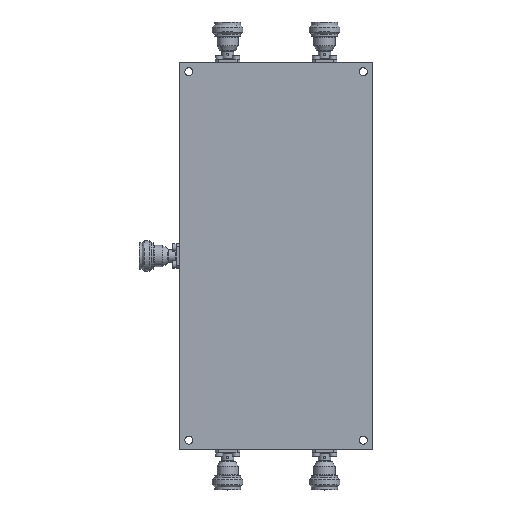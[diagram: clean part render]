
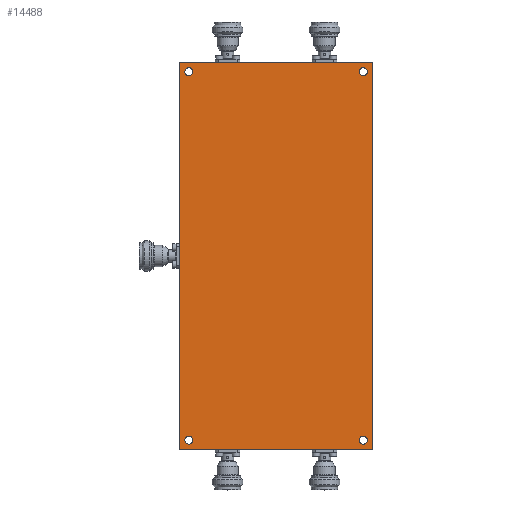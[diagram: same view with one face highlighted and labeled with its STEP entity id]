
A CAD part, top view. The second image highlights one B-rep face of the part: STEP entity #14488.
In plain terms, the highlighted planar face has unit normal (0, 0, 1).
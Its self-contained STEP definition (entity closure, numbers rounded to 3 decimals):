
#759=LINE('',#19435,#1191);
#771=LINE('',#19476,#1203);
#779=LINE('',#19501,#1211);
#785=LINE('',#19540,#1217);
#1191=VECTOR('',#16485,1000.);
#1203=VECTOR('',#16515,1000.);
#1211=VECTOR('',#16533,1000.);
#1217=VECTOR('',#16573,1000.);
#1679=ORIENTED_EDGE('',*,*,#4291,.T.);
#1680=ORIENTED_EDGE('',*,*,#4279,.T.);
#1681=ORIENTED_EDGE('',*,*,#4309,.T.);
#1682=ORIENTED_EDGE('',*,*,#4259,.T.);
#1683=ORIENTED_EDGE('',*,*,#4307,.F.);
#1684=ORIENTED_EDGE('',*,*,#4305,.F.);
#1685=ORIENTED_EDGE('',*,*,#4303,.F.);
#1686=ORIENTED_EDGE('',*,*,#4301,.F.);
#4259=EDGE_CURVE('',#5575,#5576,#759,.T.);
#4279=EDGE_CURVE('',#5595,#5596,#771,.T.);
#4291=EDGE_CURVE('',#5576,#5595,#779,.T.);
#4301=EDGE_CURVE('',#5615,#5615,#6564,.T.);
#4303=EDGE_CURVE('',#5617,#5617,#6566,.T.);
#4305=EDGE_CURVE('',#5619,#5619,#6568,.T.);
#4307=EDGE_CURVE('',#5621,#5621,#6570,.T.);
#4309=EDGE_CURVE('',#5596,#5575,#785,.T.);
#5575=VERTEX_POINT('',#19436);
#5576=VERTEX_POINT('',#19437);
#5595=VERTEX_POINT('',#19477);
#5596=VERTEX_POINT('',#19478);
#5615=VERTEX_POINT('',#19521);
#5617=VERTEX_POINT('',#19526);
#5619=VERTEX_POINT('',#19531);
#5621=VERTEX_POINT('',#19536);
#6564=CIRCLE('',#15236,2.1);
#6566=CIRCLE('',#15239,2.1);
#6568=CIRCLE('',#15242,2.1);
#6570=CIRCLE('',#15245,2.1);
#7114=EDGE_LOOP('',(#1679,#1680,#1681,#1682));
#7115=EDGE_LOOP('',(#1683));
#7116=EDGE_LOOP('',(#1684));
#7117=EDGE_LOOP('',(#1685));
#7118=EDGE_LOOP('',(#1686));
#8158=FACE_BOUND('',#7114,.T.);
#8159=FACE_BOUND('',#7115,.T.);
#8160=FACE_BOUND('',#7116,.T.);
#8161=FACE_BOUND('',#7117,.T.);
#8162=FACE_BOUND('',#7118,.T.);
#9214=PLANE('',#15247);
#14488=ADVANCED_FACE('',(#8158,#8159,#8160,#8161,#8162),#9214,.T.);
#15236=AXIS2_PLACEMENT_3D('',#19520,#16549,#16550);
#15239=AXIS2_PLACEMENT_3D('',#19525,#16555,#16556);
#15242=AXIS2_PLACEMENT_3D('',#19530,#16561,#16562);
#15245=AXIS2_PLACEMENT_3D('',#19535,#16567,#16568);
#15247=AXIS2_PLACEMENT_3D('',#19539,#16571,#16572);
#16485=DIRECTION('',(-1.,0.,0.));
#16515=DIRECTION('',(1.,0.,0.));
#16533=DIRECTION('',(0.,-1.,0.));
#16549=DIRECTION('',(0.,0.,1.));
#16550=DIRECTION('',(1.,0.,0.));
#16555=DIRECTION('',(0.,0.,1.));
#16556=DIRECTION('',(1.,0.,0.));
#16561=DIRECTION('',(0.,0.,1.));
#16562=DIRECTION('',(1.,0.,0.));
#16567=DIRECTION('',(0.,0.,1.));
#16568=DIRECTION('',(1.,0.,0.));
#16571=DIRECTION('',(0.,0.,1.));
#16572=DIRECTION('',(1.,0.,0.));
#16573=DIRECTION('',(0.,1.,0.));
#19435=CARTESIAN_POINT('',(50.,100.,0.));
#19436=CARTESIAN_POINT('',(50.,100.,0.));
#19437=CARTESIAN_POINT('',(-50.,100.,0.));
#19476=CARTESIAN_POINT('',(-50.,-100.,0.));
#19477=CARTESIAN_POINT('',(-50.,-100.,0.));
#19478=CARTESIAN_POINT('',(50.,-100.,0.));
#19501=CARTESIAN_POINT('',(-50.,100.,0.));
#19520=CARTESIAN_POINT('',(-45.,-95.,0.));
#19521=CARTESIAN_POINT('',(-42.9,-95.,0.));
#19525=CARTESIAN_POINT('',(45.,-95.,0.));
#19526=CARTESIAN_POINT('',(47.1,-95.,0.));
#19530=CARTESIAN_POINT('',(45.,95.,0.));
#19531=CARTESIAN_POINT('',(47.1,95.,0.));
#19535=CARTESIAN_POINT('',(-45.,95.,0.));
#19536=CARTESIAN_POINT('',(-42.9,95.,0.));
#19539=CARTESIAN_POINT('',(0.,0.,0.));
#19540=CARTESIAN_POINT('',(50.,-100.,0.));
